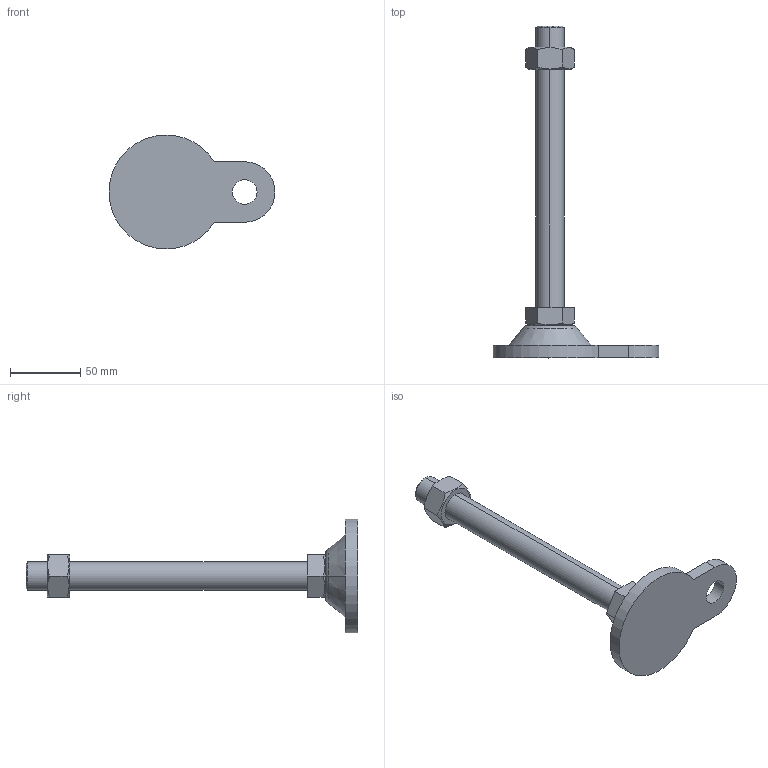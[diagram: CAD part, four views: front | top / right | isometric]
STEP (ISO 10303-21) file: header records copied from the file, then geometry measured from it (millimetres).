
FILE_DESCRIPTION (( 'STEP AP214' ), '1' );
FILE_NAME ('ARB81-M20-200.step', '2021-01-07T07:18:21', ( '' ), ( '' ), 'SwSTEP 2.0', 'SolidWorks 2019', '' );
FILE_SCHEMA (( 'AUTOMOTIVE_DESIGN' ));
Length unit declared in the file: millimetre
Products named in the file (1): ARB81-M20-200
Bounding box: 118 x 236 x 80.98 mm (x, y, z)
Volume: 162807.7 mm3; surface area: 35911.1 mm2
Topology: 3 solids, 3 shells, 46 faces, 104 edges, 66 vertices
Faces by surface type: plane 22, cone 14, cylinder 8, torus 2
Entity records: 1514 total; most frequent: CARTESIAN_POINT 431, DIRECTION 212, ORIENTED_EDGE 208, EDGE_CURVE 104, AXIS2_PLACEMENT_3D 83, VERTEX_POINT 66, EDGE_LOOP 52, ADVANCED_FACE 46
